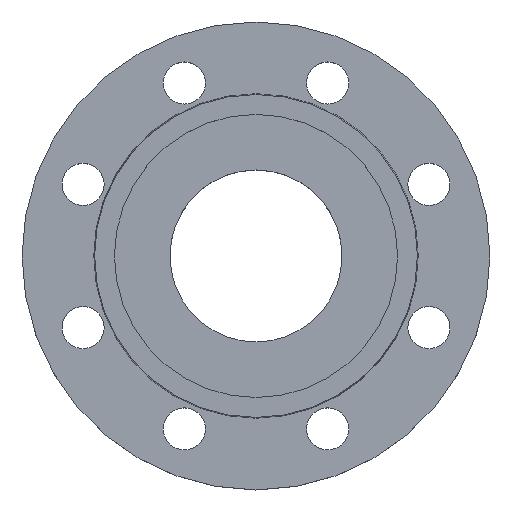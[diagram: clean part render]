
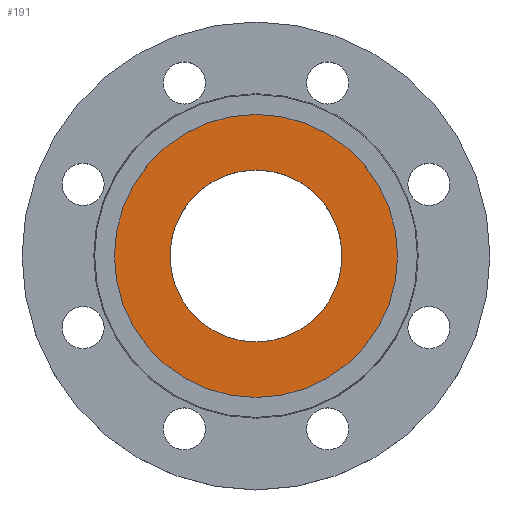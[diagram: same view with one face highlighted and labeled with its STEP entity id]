
A CAD part, top view. The second image highlights one B-rep face of the part: STEP entity #191.
In plain terms, the highlighted planar face has unit normal (0, 0, 1).
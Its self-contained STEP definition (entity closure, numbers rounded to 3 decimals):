
#4 = CIRCLE ( 'NONE', #567, 60.5 ) ;
#15 = EDGE_CURVE ( 'NONE', #700, #911, #4, .T. ) ;
#172 = CIRCLE ( 'NONE', #256, 60.5 ) ;
#173 = DIRECTION ( 'NONE',  ( 1., 0., 0. ) ) ;
#174 = DIRECTION ( 'NONE',  ( 0., 0., 1. ) ) ;
#177 = CARTESIAN_POINT ( 'NONE',  ( 0., 0., -4. ) ) ;
#191 = ADVANCED_FACE ( 'NONE', ( #593, #597 ), #532, .T. ) ;
#212 = CARTESIAN_POINT ( 'NONE',  ( -36.753, 0., -4. ) ) ;
#254 = CARTESIAN_POINT ( 'NONE',  ( 36.753, 0., -4. ) ) ;
#256 = AXIS2_PLACEMENT_3D ( 'NONE', #322, #321, #320 ) ;
#262 = CARTESIAN_POINT ( 'NONE',  ( 60.5, 0., -4. ) ) ;
#309 = DIRECTION ( 'NONE',  ( 1., 0., 0. ) ) ;
#310 = DIRECTION ( 'NONE',  ( 0., 0., 1. ) ) ;
#311 = CARTESIAN_POINT ( 'NONE',  ( 0., 0., -4. ) ) ;
#320 = DIRECTION ( 'NONE',  ( -1., 0., 0. ) ) ;
#321 = DIRECTION ( 'NONE',  ( 0., 0., -1. ) ) ;
#322 = CARTESIAN_POINT ( 'NONE',  ( 0., 0., -4. ) ) ;
#367 = CARTESIAN_POINT ( 'NONE',  ( -60.5, 0., -4. ) ) ;
#532 = PLANE ( 'NONE',  #861 ) ;
#548 = AXIS2_PLACEMENT_3D ( 'NONE', #311, #310, #309 ) ;
#567 = AXIS2_PLACEMENT_3D ( 'NONE', #742, #743, #744 ) ;
#593 = FACE_BOUND ( 'NONE', #963, .T. ) ;
#594 = CIRCLE ( 'NONE', #598, 36.753 ) ;
#597 = FACE_OUTER_BOUND ( 'NONE', #702, .T. ) ;
#598 = AXIS2_PLACEMENT_3D ( 'NONE', #177, #174, #173 ) ;
#700 = VERTEX_POINT ( 'NONE', #367 ) ;
#702 = EDGE_LOOP ( 'NONE', ( #1089, #1091 ) ) ;
#742 = CARTESIAN_POINT ( 'NONE',  ( 0., 0., -4. ) ) ;
#743 = DIRECTION ( 'NONE',  ( 0., 0., -1. ) ) ;
#744 = DIRECTION ( 'NONE',  ( -1., 0., 0. ) ) ;
#775 = CIRCLE ( 'NONE', #548, 36.753 ) ;
#803 = EDGE_CURVE ( 'NONE', #911, #700, #172, .T. ) ;
#825 = EDGE_CURVE ( 'NONE', #916, #968, #775, .T. ) ;
#851 = DIRECTION ( 'NONE',  ( 1., 0., 0. ) ) ;
#854 = DIRECTION ( 'NONE',  ( 0., 0., 1. ) ) ;
#857 = CARTESIAN_POINT ( 'NONE',  ( 60.5, 0., -4. ) ) ;
#861 = AXIS2_PLACEMENT_3D ( 'NONE', #857, #854, #851 ) ;
#911 = VERTEX_POINT ( 'NONE', #262 ) ;
#916 = VERTEX_POINT ( 'NONE', #254 ) ;
#963 = EDGE_LOOP ( 'NONE', ( #1087, #1088 ) ) ;
#968 = VERTEX_POINT ( 'NONE', #212 ) ;
#1006 = EDGE_CURVE ( 'NONE', #968, #916, #594, .T. ) ;
#1087 = ORIENTED_EDGE ( 'NONE', *, *, #825, .F. ) ;
#1088 = ORIENTED_EDGE ( 'NONE', *, *, #1006, .F. ) ;
#1089 = ORIENTED_EDGE ( 'NONE', *, *, #15, .F. ) ;
#1091 = ORIENTED_EDGE ( 'NONE', *, *, #803, .F. ) ;
